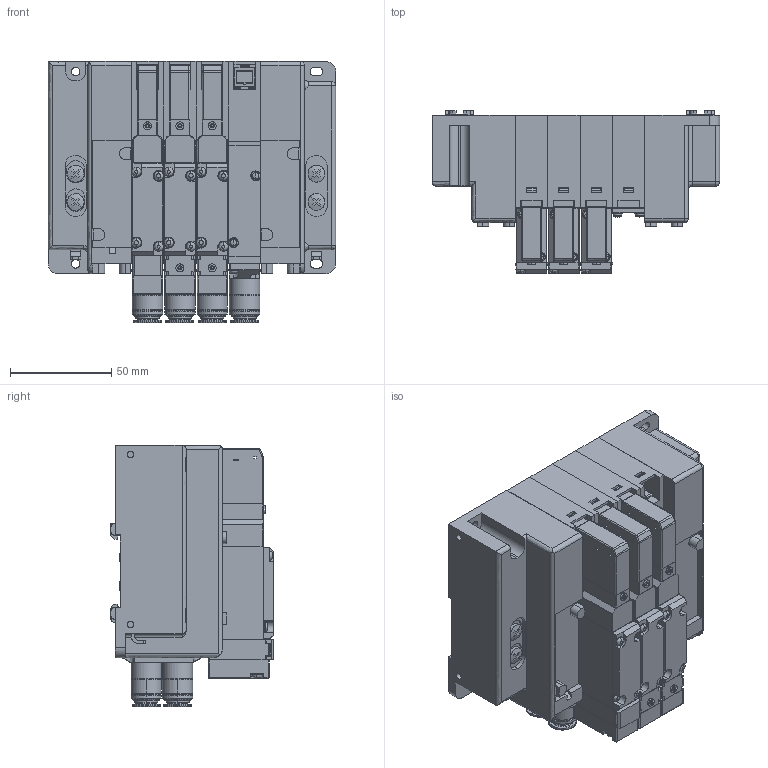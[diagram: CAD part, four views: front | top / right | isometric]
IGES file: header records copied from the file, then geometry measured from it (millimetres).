
Start section: ------------------------------------------------------------------------
Global section: file name: D:\ICADMX\tmp\trans3d_spg\CVICAD02.5220.F15M4XSJ-JR-B1-DR_17034.igs; native system: spGate; preprocessor: ver12.6.6; author: Unknown; organization: Unknown; date: 210712.185013; units: millimetre
Bounding box: 142 x 80.2 x 129 mm (x, y, z)
Volume: 772790.8 mm3; surface area: 189621.9 mm2
Topology: 32 solids, 32 shells, 3159 faces, 8175 edges, 5276 vertices
Faces by surface type: bspline 3159
